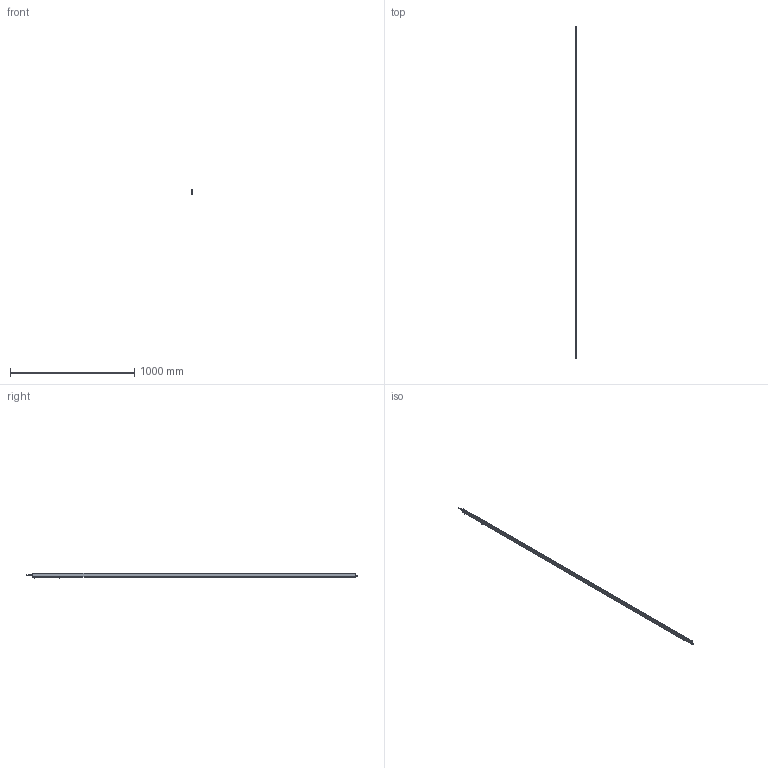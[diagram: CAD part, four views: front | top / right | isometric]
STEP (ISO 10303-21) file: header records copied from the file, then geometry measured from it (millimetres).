
FILE_DESCRIPTION (( 'STEP AP214' ), '1' );
FILE_NAME ('ILG-B-K2-2597mm.STEP', '2017-07-10T13:13:26', ( '' ), ( '' ), 'SwSTEP 2.0', 'SolidWorks 2016', '' );
FILE_SCHEMA (( 'AUTOMOTIVE_DESIGN' ));
Length unit declared in the file: millimetre
Products named in the file (1): ILG-B-K2-2597mm
Bounding box: 9 x 2670.5 x 46.21 mm (x, y, z)
Surface area: 430119.7 mm2 (no closed solid volume)
Topology: 0 solids, 15 shells, 702 faces, 1822 edges, 1157 vertices
Faces by surface type: cylinder 287, plane 266, cone 99, bspline 32, torus 18
Entity records: 31388 total; most frequent: CARTESIAN_POINT 6631, ORIENTED_EDGE 3597, DIRECTION 3488, EDGE_CURVE 1806, AXIS2_PLACEMENT_3D 1342, VERTEX_POINT 1157, LINE 804, VECTOR 804
